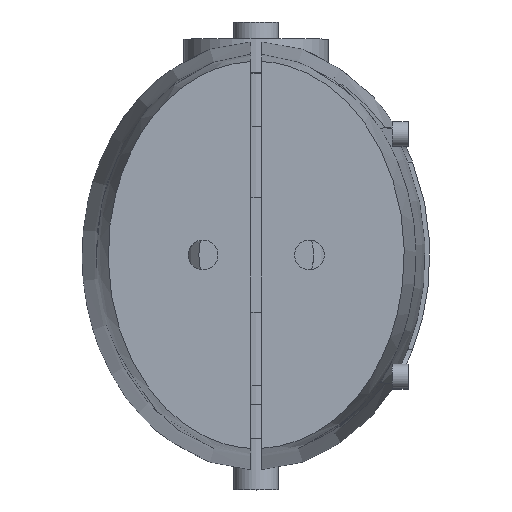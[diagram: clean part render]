
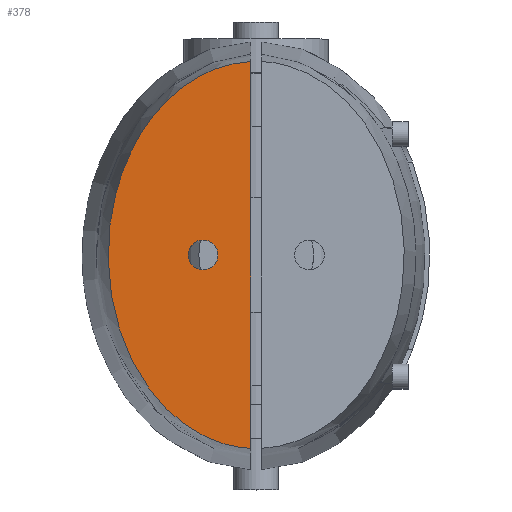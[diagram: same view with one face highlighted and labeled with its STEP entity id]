
A CAD part, top view. The second image highlights one B-rep face of the part: STEP entity #378.
In plain terms, the highlighted planar face has unit normal (0, 0, 1).
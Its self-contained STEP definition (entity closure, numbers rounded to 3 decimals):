
#86 = VERTEX_POINT('',#87);
#87 = CARTESIAN_POINT('',(-0.25,9.094,28.2));
#185 = VERTEX_POINT('',#186);
#186 = CARTESIAN_POINT('',(-0.25,-9.094,28.2));
#263 = EDGE_CURVE('',#86,#185,#264,.T.);
#264 = B_SPLINE_CURVE_WITH_KNOTS('',14,(#265,#266,#267,#268,#269,#270,
    #271,#272,#273,#274,#275,#276,#277,#278,#279),.UNSPECIFIED.,.T.,.F.,
  (15,15),(0.,1.),.PIECEWISE_BEZIER_KNOTS.);
#265 = CARTESIAN_POINT('',(0.,9.1,28.2));
#266 = CARTESIAN_POINT('',(-3.124,9.1,28.2));
#267 = CARTESIAN_POINT('',(-6.247,7.126,28.2));
#268 = CARTESIAN_POINT('',(-8.58,3.178,28.2));
#269 = CARTESIAN_POINT('',(-9.333,-2.153,28.2));
#270 = CARTESIAN_POINT('',(-7.997,-7.687,28.2));
#271 = CARTESIAN_POINT('',(-4.635,-11.912,28.2));
#272 = CARTESIAN_POINT('',(0.,-13.503,28.2));
#273 = CARTESIAN_POINT('',(4.635,-11.912,28.2));
#274 = CARTESIAN_POINT('',(7.997,-7.687,28.2));
#275 = CARTESIAN_POINT('',(9.333,-2.153,28.2));
#276 = CARTESIAN_POINT('',(8.58,3.178,28.2));
#277 = CARTESIAN_POINT('',(6.247,7.126,28.2));
#278 = CARTESIAN_POINT('',(3.124,9.1,28.2));
#279 = CARTESIAN_POINT('',(0.,9.1,28.2));
#367 = EDGE_CURVE('',#185,#86,#368,.T.);
#368 = LINE('',#369,#370);
#369 = CARTESIAN_POINT('',(-0.25,-12.95,28.2));
#370 = VECTOR('',#371,1.);
#371 = DIRECTION('',(-0.,1.,0.));
#378 = ADVANCED_FACE('',(#379,#383),#394,.T.);
#379 = FACE_BOUND('',#380,.T.);
#380 = EDGE_LOOP('',(#381,#382));
#381 = ORIENTED_EDGE('',*,*,#367,.T.);
#382 = ORIENTED_EDGE('',*,*,#263,.T.);
#383 = FACE_BOUND('',#384,.T.);
#384 = EDGE_LOOP('',(#385));
#385 = ORIENTED_EDGE('',*,*,#386,.F.);
#386 = EDGE_CURVE('',#387,#387,#389,.T.);
#387 = VERTEX_POINT('',#388);
#388 = CARTESIAN_POINT('',(-1.8,0.,28.2));
#389 = CIRCLE('',#390,0.7);
#390 = AXIS2_PLACEMENT_3D('',#391,#392,#393);
#391 = CARTESIAN_POINT('',(-2.5,0.,28.2));
#392 = DIRECTION('',(0.,0.,1.));
#393 = DIRECTION('',(1.,0.,-0.));
#394 = PLANE('',#395);
#395 = AXIS2_PLACEMENT_3D('',#396,#397,#398);
#396 = CARTESIAN_POINT('',(0.,9.1,28.2));
#397 = DIRECTION('',(0.,0.,1.));
#398 = DIRECTION('',(0.,-1.,0.));
